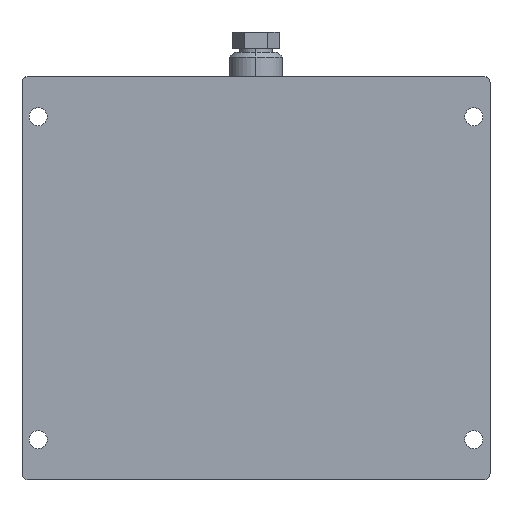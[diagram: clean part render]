
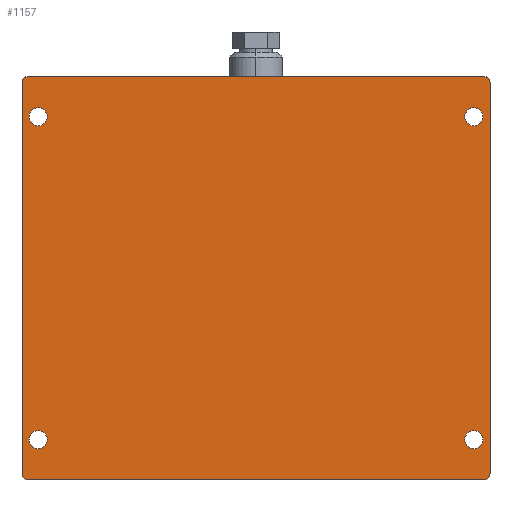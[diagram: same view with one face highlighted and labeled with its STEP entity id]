
A CAD part, front view. The second image highlights one B-rep face of the part: STEP entity #1157.
In plain terms, the highlighted planar face has unit normal (0, -1, 0).
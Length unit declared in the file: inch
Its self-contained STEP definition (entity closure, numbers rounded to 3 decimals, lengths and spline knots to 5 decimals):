
#31 = DIRECTION ( 'NONE',  ( 0., 1., 0. ) ) ;
#34 = CARTESIAN_POINT ( 'NONE',  ( 6.75, -0.1875, -4.71875 ) ) ;
#39 = DIRECTION ( 'NONE',  ( 0., 1., 0. ) ) ;
#55 = CIRCLE ( 'NONE', #2920, 0.28125 ) ;
#56 = FACE_BOUND ( 'NONE', #265, .T. ) ;
#59 = AXIS2_PLACEMENT_3D ( 'NONE', #2279, #833, #1309 ) ;
#83 = DIRECTION ( 'NONE',  ( 0., 1., 0. ) ) ;
#107 = ORIENTED_EDGE ( 'NONE', *, *, #2177, .T. ) ;
#122 = AXIS2_PLACEMENT_3D ( 'NONE', #1476, #2624, #1461 ) ;
#157 = DIRECTION ( 'NONE',  ( -1., 0., 0. ) ) ;
#175 = CIRCLE ( 'NONE', #2682, 0.28125 ) ;
#187 = VERTEX_POINT ( 'NONE', #34 ) ;
#210 = EDGE_CURVE ( 'NONE', #2697, #2202, #1874, .T. ) ;
#244 = VECTOR ( 'NONE', #157, 39.37008 ) ;
#265 = EDGE_LOOP ( 'NONE', ( #2514, #2161 ) ) ;
#284 = FACE_BOUND ( 'NONE', #2617, .T. ) ;
#285 = DIRECTION ( 'NONE',  ( 0., 0., -1. ) ) ;
#295 = EDGE_LOOP ( 'NONE', ( #2121, #518 ) ) ;
#351 = AXIS2_PLACEMENT_3D ( 'NONE', #2406, #39, #762 ) ;
#357 = LINE ( 'NONE', #850, #819 ) ;
#363 = EDGE_CURVE ( 'NONE', #2298, #1976, #2061, .T. ) ;
#366 = VERTEX_POINT ( 'NONE', #1495 ) ;
#421 = DIRECTION ( 'NONE',  ( 0., 1., 0. ) ) ;
#426 = AXIS2_PLACEMENT_3D ( 'NONE', #2344, #1892, #1371 ) ;
#492 = DIRECTION ( 'NONE',  ( 0., 1., 0. ) ) ;
#505 = CARTESIAN_POINT ( 'NONE',  ( 7.0625, -0.1875, 6.0625 ) ) ;
#518 = ORIENTED_EDGE ( 'NONE', *, *, #2361, .T. ) ;
#603 = CARTESIAN_POINT ( 'NONE',  ( -6.75, -0.1875, -5.28125 ) ) ;
#636 = ORIENTED_EDGE ( 'NONE', *, *, #1731, .F. ) ;
#664 = CIRCLE ( 'NONE', #2477, 0.1875 ) ;
#685 = CIRCLE ( 'NONE', #2910, 0.1875 ) ;
#691 = EDGE_CURVE ( 'NONE', #2836, #1783, #685, .T. ) ;
#710 = EDGE_CURVE ( 'NONE', #986, #1429, #2586, .T. ) ;
#729 = EDGE_LOOP ( 'NONE', ( #1028, #2498, #2173, #636, #1723, #1603, #2812, #1175 ) ) ;
#740 = CARTESIAN_POINT ( 'NONE',  ( -7.0625, -0.1875, 6.25 ) ) ;
#762 = DIRECTION ( 'NONE',  ( 0., 0., -1. ) ) ;
#800 = AXIS2_PLACEMENT_3D ( 'NONE', #2374, #2383, #2606 ) ;
#819 = VECTOR ( 'NONE', #3017, 39.37008 ) ;
#833 = DIRECTION ( 'NONE',  ( 0., 1., 0. ) ) ;
#841 = VERTEX_POINT ( 'NONE', #976 ) ;
#848 = CIRCLE ( 'NONE', #2423, 0.28125 ) ;
#850 = CARTESIAN_POINT ( 'NONE',  ( -7.0625, -0.1875, 6.25 ) ) ;
#939 = EDGE_LOOP ( 'NONE', ( #1277, #2128 ) ) ;
#964 = DIRECTION ( 'NONE',  ( 0., 0., 1. ) ) ;
#976 = CARTESIAN_POINT ( 'NONE',  ( 7.25, -0.1875, -6.0625 ) ) ;
#986 = VERTEX_POINT ( 'NONE', #2833 ) ;
#1010 = CARTESIAN_POINT ( 'NONE',  ( -6.75, -0.1875, 5. ) ) ;
#1028 = ORIENTED_EDGE ( 'NONE', *, *, #691, .F. ) ;
#1045 = LINE ( 'NONE', #2642, #2522 ) ;
#1148 = CARTESIAN_POINT ( 'NONE',  ( 6.75, -0.1875, -5. ) ) ;
#1157 = ADVANCED_FACE ( 'NONE', ( #1667, #56, #1967, #284, #2528 ), #1486, .F. ) ;
#1175 = ORIENTED_EDGE ( 'NONE', *, *, #1896, .F. ) ;
#1176 = ORIENTED_EDGE ( 'NONE', *, *, #210, .T. ) ;
#1249 = CARTESIAN_POINT ( 'NONE',  ( 6.75, -0.1875, -5. ) ) ;
#1277 = ORIENTED_EDGE ( 'NONE', *, *, #1704, .T. ) ;
#1278 = VERTEX_POINT ( 'NONE', #2921 ) ;
#1298 = VECTOR ( 'NONE', #2074, 39.37008 ) ;
#1309 = DIRECTION ( 'NONE',  ( 0., 0., -1. ) ) ;
#1371 = DIRECTION ( 'NONE',  ( 0., 0., -1. ) ) ;
#1429 = VERTEX_POINT ( 'NONE', #2079 ) ;
#1461 = DIRECTION ( 'NONE',  ( 0., 0., 1. ) ) ;
#1466 = CARTESIAN_POINT ( 'NONE',  ( 6.75, -0.1875, 4.71875 ) ) ;
#1476 = CARTESIAN_POINT ( 'NONE',  ( 6.75, -0.1875, 5. ) ) ;
#1484 = DIRECTION ( 'NONE',  ( 0., 0., -1. ) ) ;
#1486 = PLANE ( 'NONE',  #2313 ) ;
#1489 = AXIS2_PLACEMENT_3D ( 'NONE', #2906, #1756, #285 ) ;
#1495 = CARTESIAN_POINT ( 'NONE',  ( -6.75, -0.1875, 4.71875 ) ) ;
#1531 = EDGE_CURVE ( 'NONE', #2537, #986, #2186, .T. ) ;
#1547 = CARTESIAN_POINT ( 'NONE',  ( 7.0625, -0.1875, 6.0625 ) ) ;
#1603 = ORIENTED_EDGE ( 'NONE', *, *, #1531, .F. ) ;
#1661 = DIRECTION ( 'NONE',  ( 0., 1., 0. ) ) ;
#1667 = FACE_BOUND ( 'NONE', #939, .T. ) ;
#1677 = VERTEX_POINT ( 'NONE', #740 ) ;
#1704 = EDGE_CURVE ( 'NONE', #2340, #366, #2634, .T. ) ;
#1721 = VERTEX_POINT ( 'NONE', #1978 ) ;
#1723 = ORIENTED_EDGE ( 'NONE', *, *, #710, .F. ) ;
#1727 = EDGE_CURVE ( 'NONE', #187, #1278, #848, .T. ) ;
#1731 = EDGE_CURVE ( 'NONE', #1429, #1721, #1045, .T. ) ;
#1756 = DIRECTION ( 'NONE',  ( 0., 1., 0. ) ) ;
#1772 = DIRECTION ( 'NONE',  ( 0., 0., 1. ) ) ;
#1783 = VERTEX_POINT ( 'NONE', #2415 ) ;
#1797 = DIRECTION ( 'NONE',  ( 0., 0., 1. ) ) ;
#1832 = CARTESIAN_POINT ( 'NONE',  ( -6.75, -0.1875, -4.71875 ) ) ;
#1874 = CIRCLE ( 'NONE', #122, 0.28125 ) ;
#1892 = DIRECTION ( 'NONE',  ( 0., 1., 0. ) ) ;
#1896 = EDGE_CURVE ( 'NONE', #1783, #841, #2709, .T. ) ;
#1913 = DIRECTION ( 'NONE',  ( 0., 0., -1. ) ) ;
#1967 = FACE_BOUND ( 'NONE', #295, .T. ) ;
#1976 = VERTEX_POINT ( 'NONE', #603 ) ;
#1978 = CARTESIAN_POINT ( 'NONE',  ( -7.25, -0.1875, 6.0625 ) ) ;
#2029 = DIRECTION ( 'NONE',  ( 0., 1., 0. ) ) ;
#2041 = CARTESIAN_POINT ( 'NONE',  ( 7.0625, -0.1875, 6.25 ) ) ;
#2057 = EDGE_CURVE ( 'NONE', #841, #2537, #3014, .T. ) ;
#2061 = CIRCLE ( 'NONE', #1489, 0.28125 ) ;
#2074 = DIRECTION ( 'NONE',  ( 0., 0., -1. ) ) ;
#2079 = CARTESIAN_POINT ( 'NONE',  ( -7.25, -0.1875, -6.0625 ) ) ;
#2119 = AXIS2_PLACEMENT_3D ( 'NONE', #1010, #31, #1484 ) ;
#2121 = ORIENTED_EDGE ( 'NONE', *, *, #1727, .T. ) ;
#2128 = ORIENTED_EDGE ( 'NONE', *, *, #2707, .T. ) ;
#2161 = ORIENTED_EDGE ( 'NONE', *, *, #3034, .T. ) ;
#2173 = ORIENTED_EDGE ( 'NONE', *, *, #2842, .F. ) ;
#2177 = EDGE_CURVE ( 'NONE', #2202, #2697, #2865, .T. ) ;
#2186 = LINE ( 'NONE', #2519, #244 ) ;
#2202 = VERTEX_POINT ( 'NONE', #1466 ) ;
#2279 = CARTESIAN_POINT ( 'NONE',  ( -7.0625, -0.1875, -6.0625 ) ) ;
#2280 = CARTESIAN_POINT ( 'NONE',  ( -6.75, -0.1875, 5.28125 ) ) ;
#2298 = VERTEX_POINT ( 'NONE', #1832 ) ;
#2313 = AXIS2_PLACEMENT_3D ( 'NONE', #505, #2902, #1772 ) ;
#2340 = VERTEX_POINT ( 'NONE', #2280 ) ;
#2344 = CARTESIAN_POINT ( 'NONE',  ( 7.0625, -0.1875, -6.0625 ) ) ;
#2361 = EDGE_CURVE ( 'NONE', #1278, #187, #55, .T. ) ;
#2374 = CARTESIAN_POINT ( 'NONE',  ( 6.75, -0.1875, 5. ) ) ;
#2383 = DIRECTION ( 'NONE',  ( 0., 1., 0. ) ) ;
#2406 = CARTESIAN_POINT ( 'NONE',  ( -6.75, -0.1875, 5. ) ) ;
#2415 = CARTESIAN_POINT ( 'NONE',  ( 7.25, -0.1875, 6.0625 ) ) ;
#2423 = AXIS2_PLACEMENT_3D ( 'NONE', #1249, #492, #964 ) ;
#2477 = AXIS2_PLACEMENT_3D ( 'NONE', #2960, #2029, #2481 ) ;
#2481 = DIRECTION ( 'NONE',  ( 0., 0., -1. ) ) ;
#2498 = ORIENTED_EDGE ( 'NONE', *, *, #2983, .F. ) ;
#2514 = ORIENTED_EDGE ( 'NONE', *, *, #363, .T. ) ;
#2519 = CARTESIAN_POINT ( 'NONE',  ( -7.0625, -0.1875, -6.25 ) ) ;
#2522 = VECTOR ( 'NONE', #2886, 39.37008 ) ;
#2528 = FACE_OUTER_BOUND ( 'NONE', #729, .T. ) ;
#2537 = VERTEX_POINT ( 'NONE', #2851 ) ;
#2586 = CIRCLE ( 'NONE', #59, 0.1875 ) ;
#2606 = DIRECTION ( 'NONE',  ( 0., 0., 1. ) ) ;
#2617 = EDGE_LOOP ( 'NONE', ( #1176, #107 ) ) ;
#2624 = DIRECTION ( 'NONE',  ( 0., 1., 0. ) ) ;
#2634 = CIRCLE ( 'NONE', #2119, 0.28125 ) ;
#2642 = CARTESIAN_POINT ( 'NONE',  ( -7.25, -0.1875, 6.0625 ) ) ;
#2665 = CARTESIAN_POINT ( 'NONE',  ( 6.75, -0.1875, 5.28125 ) ) ;
#2682 = AXIS2_PLACEMENT_3D ( 'NONE', #3065, #1661, #1913 ) ;
#2697 = VERTEX_POINT ( 'NONE', #2665 ) ;
#2707 = EDGE_CURVE ( 'NONE', #366, #2340, #2819, .T. ) ;
#2709 = LINE ( 'NONE', #2981, #1298 ) ;
#2794 = DIRECTION ( 'NONE',  ( 0., 0., 1. ) ) ;
#2812 = ORIENTED_EDGE ( 'NONE', *, *, #2057, .F. ) ;
#2819 = CIRCLE ( 'NONE', #351, 0.28125 ) ;
#2833 = CARTESIAN_POINT ( 'NONE',  ( -7.0625, -0.1875, -6.25 ) ) ;
#2836 = VERTEX_POINT ( 'NONE', #2041 ) ;
#2842 = EDGE_CURVE ( 'NONE', #1721, #1677, #664, .T. ) ;
#2851 = CARTESIAN_POINT ( 'NONE',  ( 7.0625, -0.1875, -6.25 ) ) ;
#2865 = CIRCLE ( 'NONE', #800, 0.28125 ) ;
#2886 = DIRECTION ( 'NONE',  ( 0., 0., 1. ) ) ;
#2902 = DIRECTION ( 'NONE',  ( 0., 1., 0. ) ) ;
#2906 = CARTESIAN_POINT ( 'NONE',  ( -6.75, -0.1875, -5. ) ) ;
#2910 = AXIS2_PLACEMENT_3D ( 'NONE', #1547, #83, #1797 ) ;
#2920 = AXIS2_PLACEMENT_3D ( 'NONE', #1148, #421, #2794 ) ;
#2921 = CARTESIAN_POINT ( 'NONE',  ( 6.75, -0.1875, -5.28125 ) ) ;
#2960 = CARTESIAN_POINT ( 'NONE',  ( -7.0625, -0.1875, 6.0625 ) ) ;
#2981 = CARTESIAN_POINT ( 'NONE',  ( 7.25, -0.1875, 6.0625 ) ) ;
#2983 = EDGE_CURVE ( 'NONE', #1677, #2836, #357, .T. ) ;
#3014 = CIRCLE ( 'NONE', #426, 0.1875 ) ;
#3017 = DIRECTION ( 'NONE',  ( 1., 0., 0. ) ) ;
#3034 = EDGE_CURVE ( 'NONE', #1976, #2298, #175, .T. ) ;
#3065 = CARTESIAN_POINT ( 'NONE',  ( -6.75, -0.1875, -5. ) ) ;
